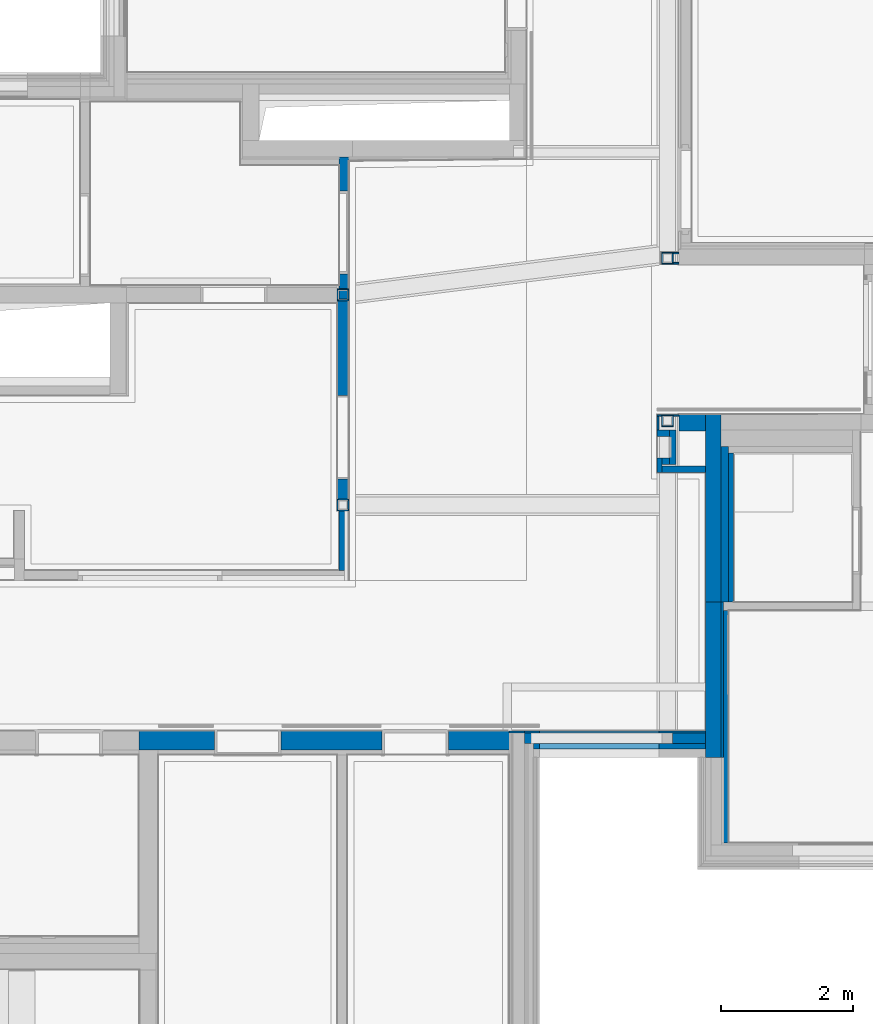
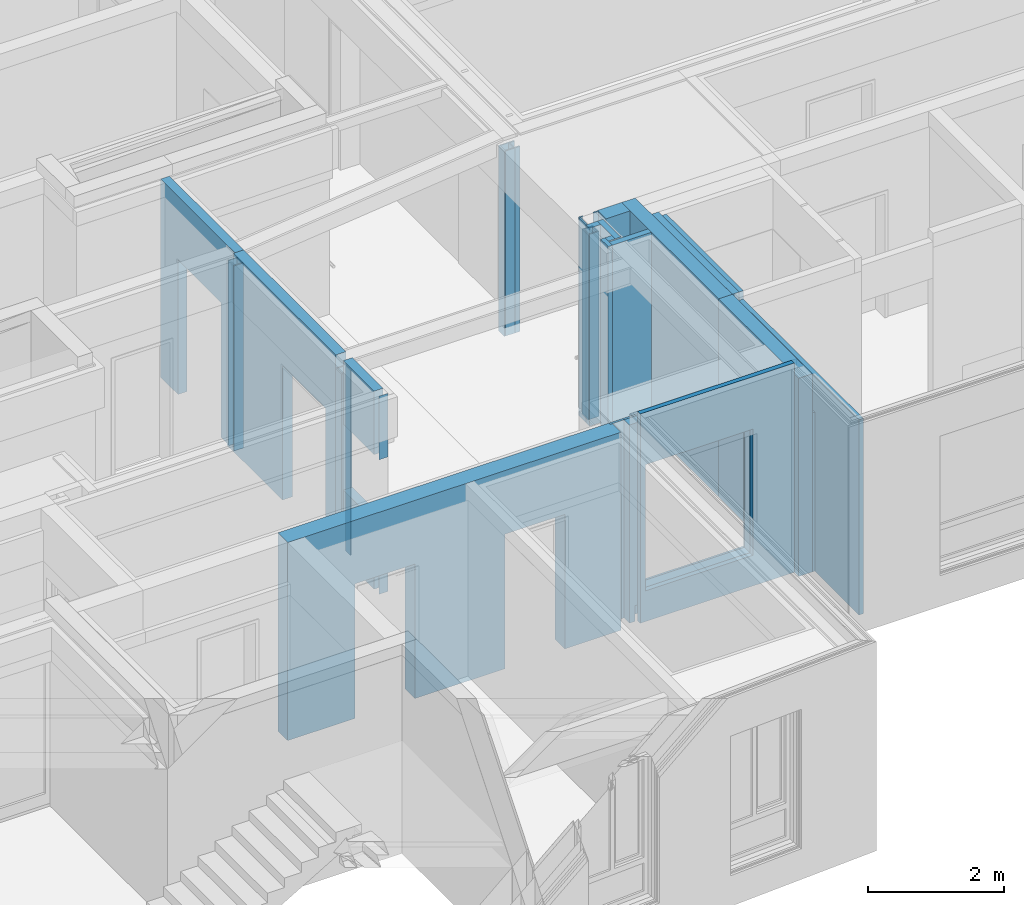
# One storey, part 41 of 222: 41 walls, 8 openings.
"""IFC4 building model written with IfcOpenShell, lengths in metres."""

from ifc_helpers import new_model, entity, si_unit, converted_unit, derived_unit, frame, frame_2d, origin, origin_with_axes, place, context, subcontext, project, spatial, polyline, rectangle, outline, extrude, clip, bounded_halfspace, material, element, save


model = new_model("IFC4")

# Units and contexts
model_context = context("Model", 3, precision=1e-05, world=origin())
body_context = subcontext(model_context, "Body", "Model", "MODEL_VIEW")
ifc_project = project(units=[si_unit("LENGTHUNIT", "METRE"), si_unit("AREAUNIT", "SQUARE_METRE"), si_unit("VOLUMEUNIT", "CUBIC_METRE"), si_unit("MASSUNIT", "GRAM", prefix="KILO"), converted_unit("PLANEANGLEUNIT", "DEGREE", entity("IfcPlaneAngleMeasure", 0.0174532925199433), si_unit("PLANEANGLEUNIT", "RADIAN"), dimensions=[0, 0, 0, 0, 0, 0, 0]), derived_unit("THERMALTRANSMITTANCEUNIT", [(si_unit("POWERUNIT", "WATT"), 1), (si_unit("THERMODYNAMICTEMPERATUREUNIT", "KELVIN"), -1), (si_unit("LENGTHUNIT", "METRE"), -2)]), derived_unit("VOLUMETRICFLOWRATEUNIT", [(si_unit("LENGTHUNIT", "METRE"), 3), (converted_unit("TIMEUNIT", "hour", entity("IfcTimeMeasure", 3600.0), si_unit("TIMEUNIT", "SECOND"), dimensions=[0, 0, 1, 0, 0, 0, 0]), -1), (si_unit("LENGTHUNIT", "METRE"), -1)])], contexts=[model_context])

# Site, building, storey
site_placement = place(None, origin())
site = spatial("IfcSite", under=ifc_project, at=site_placement, Name="Psychiatrie Neubau Wunstorf", CompositionType="ELEMENT")
building_placement = place(site_placement, origin())
building = spatial("IfcBuilding", under=site, at=building_placement, Name="Neubau H2 Stationsgebäude", CompositionType="ELEMENT")
storey_placement = place(building_placement, frame((0.0, 0.0, 3.6)))
storey = spatial("IfcBuildingStorey", under=building, at=storey_placement, Name="H2 Ebene +1", CompositionType="ELEMENT", Elevation=3.6)

# Wall
ifc_material_1 = material(Name="WA-LB")
wall_1_placement = place(storey_placement, frame((68.0875, 0.5360024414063, 0.0), z_axis=(0.0, 0.0, 1.0), x_axis=(-1.0, 0.0, 0.0)))
element("IfcWall", 1, at=wall_1_placement, inside=storey, material=ifc_material_1, context=body_context, shape_type="SweptSolid", body=[
    extrude(rectangle(XDim=0.235, YDim=0.0360000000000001, at=frame_2d((0.1175, 0.018), x_axis=(1.0, 0.0))), origin_with_axes(), (0.0, 0.0, 1.0), 3.55),
])

# Wall, opening
ifc_material_2 = material(Name="WA-LB")
wall_2_placement = place(storey_placement, frame((70.8355, 0.536002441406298, 0.0), z_axis=(0.0, 0.0, 1.0), x_axis=(-1.0, 3.72336804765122e-16, 0.0)))
wall_2 = element("IfcWall", 2, at=wall_2_placement, inside=storey, material=ifc_material_2, context=body_context, shape_type="SweptSolid", body=[
    extrude(rectangle(XDim=2.74799999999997, YDim=0.036, at=frame_2d((1.37399999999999, 0.018), x_axis=(1.0, 0.0))), origin_with_axes(), (0.0, 0.0, 1.0), 3.55),
])
opening_1_placement = place(wall_2_placement, frame((2.52099999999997, 0.036, 0.55), z_axis=(0.0, -1.0, 0.0), x_axis=(0.0, 0.0, 1.0)))
element("IfcOpeningElement", 3, at=opening_1_placement, cuts=wall_2, Name="Fensteröffnung", ObjectType="Opening", context=body_context, shape_type="SweptSolid", body=[
    extrude(outline(polyline([(2.26, 1.8145), (2.26, 0.0), (0.0, 0.0), (0.0, 1.8145), (2.26, 1.8145)])), origin_with_axes(), (0.0, 0.0, 1.0), 0.0359999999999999),
])

ifc_material_3 = material(Name="WA-HD")
wall_3_placement = place(storey_placement, frame((70.8355, 0.500002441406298, 0.0), z_axis=(0.0, 0.0, 1.0), x_axis=(-1.0, 3.30966048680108e-16, 0.0)))
wall_3 = element("IfcWall", 4, at=wall_3_placement, inside=storey, material=ifc_material_3, context=body_context, shape_type="Clipping", body=[
    clip(extrude(rectangle(XDim=2.0875, YDim=0.16, at=frame_2d((1.04375, 0.08), x_axis=(1.0, 4.2014851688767e-18))), frame((0.660499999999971, 0.0, 0.0), z_axis=(0.0, 0.0, 1.0), x_axis=(1.0, 0.0, 0.0)), (0.0, 0.0, 1.0), 3.55), bounded_halfspace(frame((1.656249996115, 0.0800006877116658, 0.28), z_axis=(-2.28344138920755e-16, -7.55741573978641e-32, 1.0), x_axis=(1.0, 1.69928576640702e-17, 2.28344138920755e-16)), True, origin_with_axes(), polyline([(0.660499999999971, 1.37542333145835e-06), (2.65199999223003, 1.37542333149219e-06), (2.65199999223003, 0.16), (0.660499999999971, 0.16), (0.660499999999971, 1.37542333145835e-06)]))),
    clip(extrude(rectangle(XDim=0.500499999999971, YDim=0.16, at=frame_2d((0.250249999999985, 0.08), x_axis=(1.0, 1.03819519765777e-16))), origin_with_axes(), (0.0, 0.0, 1.0), 3.55), bounded_halfspace(frame((1.656249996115, 0.0800006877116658, 0.28), z_axis=(-2.28344138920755e-16, -7.55741573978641e-32, 1.0), x_axis=(1.0, 1.69928576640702e-17, 2.28344138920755e-16)), True, origin_with_axes(), polyline([(0.660499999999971, 1.37542333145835e-06), (2.65199999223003, 1.37542333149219e-06), (2.65199999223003, 0.16), (0.660499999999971, 0.16), (0.660499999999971, 1.37542333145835e-06)]))),
])
opening_2_placement = place(wall_3_placement, frame((2.52099999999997, 0.16, 0.55), z_axis=(0.0, -1.0, 0.0), x_axis=(0.0, 0.0, 1.0)))
element("IfcOpeningElement", 5, at=opening_2_placement, cuts=wall_3, Name="Fensteröffnung", ObjectType="Opening", context=body_context, shape_type="SweptSolid", body=[
    extrude(outline(polyline([(2.26, 1.8145), (2.26, 0.0), (0.0, 0.0), (0.0, 1.8145), (2.26, 1.8145)])), origin_with_axes(), (0.0, 0.0, 1.0), 0.16),
])

ifc_material_4 = material(Name="WA-DL")
wall_4_placement = place(storey_placement, frame((70.8355, 0.340002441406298, 0.0), z_axis=(0.0, 0.0, 1.0), x_axis=(-1.0, 3.26311244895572e-16, 0.0)))
wall_4 = element("IfcWall", 6, at=wall_4_placement, inside=storey, material=ifc_material_4, context=body_context, shape_type="SweptSolid", body=[
    extrude(rectangle(XDim=2.61299999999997, YDim=0.08, at=frame_2d((1.30649999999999, 0.04), x_axis=(1.0, 0.0))), origin_with_axes(), (0.0, 0.0, 1.0), 3.75),
])
opening_3_placement = place(wall_4_placement, frame((2.52099999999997, 0.08, 0.55), z_axis=(0.0, -1.0, 0.0), x_axis=(0.0, 0.0, 1.0)))
element("IfcOpeningElement", 7, at=opening_3_placement, cuts=wall_4, Name="Fensteröffnung", ObjectType="Opening", context=body_context, shape_type="SweptSolid", body=[
    extrude(outline(polyline([(2.26, 1.8145), (2.26, 0.0), (0.0, 0.0), (0.0, 1.8145), (2.26, 1.8145)])), origin_with_axes(), (0.0, 0.0, 1.0), 0.08),
])

# Walls
ifc_material_5 = material(Name="WI-PR")
wall_5_placement = place(storey_placement, frame((65.4249963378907, 4.0499969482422, 0.0), z_axis=(0.0, 0.0, 1.0), x_axis=(-1.0, 0.0, 0.0)))
element("IfcWall", 8, at=wall_5_placement, inside=storey, material=ifc_material_5, context=body_context, shape_type="SweptSolid", body=[
    extrude(rectangle(XDim=0.16, YDim=0.02, at=frame_2d((0.08, 0.01), x_axis=(1.0, 0.0))), origin_with_axes(), (0.0, 0.0, 1.0), 3.317),
])
ifc_material_6 = material(Name="WI-PR")
wall_6_placement = place(storey_placement, frame((65.2449963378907, 4.0499969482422, 0.0), z_axis=(0.0, 0.0, 1.0), x_axis=(0.0, -1.0, 0.0)))
element("IfcWall", 9, at=wall_6_placement, inside=storey, material=ifc_material_6, context=body_context, shape_type="SweptSolid", body=[
    extrude(rectangle(XDim=0.18, YDim=0.02, at=frame_2d((0.09, 0.01), x_axis=(1.0, 0.0))), origin_with_axes(), (0.0, 0.0, 1.0), 3.317),
])
ifc_material_7 = material(Name="WI-PR")
wall_7_placement = place(storey_placement, frame((65.2649963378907, 3.8699969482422, 0.0)))
element("IfcWall", 10, at=wall_7_placement, inside=storey, material=ifc_material_7, context=body_context, shape_type="SweptSolid", body=[
    extrude(rectangle(XDim=0.16, YDim=0.02, at=frame_2d((0.08, 0.01), x_axis=(1.0, 0.0))), origin_with_axes(), (0.0, 0.0, 1.0), 3.317),
])
ifc_material_8 = material(Name="WI-PR")
wall_8_placement = place(storey_placement, frame((65.4249963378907, 3.8899969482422, 0.0), z_axis=(0.0, 0.0, 1.0), x_axis=(0.0, 1.0, 0.0)))
element("IfcWall", 11, at=wall_8_placement, inside=storey, material=ifc_material_8, context=body_context, shape_type="SweptSolid", body=[
    extrude(rectangle(XDim=0.14, YDim=0.02, at=frame_2d((0.07, 0.01), x_axis=(1.0, 0.0))), origin_with_axes(), (0.0, 0.0, 1.0), 3.317),
])
ifc_material_9 = material(Name="WI-PR")
wall_9_placement = place(storey_placement, frame((65.4249963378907, 7.2364996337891, 0.0), z_axis=(0.0, 0.0, 1.0), x_axis=(-1.0, 0.0, 0.0)))
element("IfcWall", 12, at=wall_9_placement, inside=storey, material=ifc_material_9, context=body_context, shape_type="SweptSolid", body=[
    extrude(rectangle(XDim=0.16, YDim=0.02, at=frame_2d((0.08, 0.01), x_axis=(1.0, 0.0))), origin_with_axes(), (0.0, 0.0, 1.0), 3.317),
])
ifc_material_10 = material(Name="WI-PR")
wall_10_placement = place(storey_placement, frame((65.2449963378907, 7.2364996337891, 0.0), z_axis=(0.0, 0.0, 1.0), x_axis=(0.0, -1.0, 0.0)))
element("IfcWall", 13, at=wall_10_placement, inside=storey, material=ifc_material_10, context=body_context, shape_type="SweptSolid", body=[
    extrude(rectangle(XDim=0.18, YDim=0.02, at=frame_2d((0.09, 0.01), x_axis=(1.0, 0.0))), origin_with_axes(), (0.0, 0.0, 1.0), 3.317),
])
ifc_material_11 = material(Name="WI-PR")
wall_11_placement = place(storey_placement, frame((65.2649963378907, 7.0564996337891, 0.0)))
element("IfcWall", 14, at=wall_11_placement, inside=storey, material=ifc_material_11, context=body_context, shape_type="SweptSolid", body=[
    extrude(rectangle(XDim=0.16, YDim=0.02, at=frame_2d((0.08, 0.01), x_axis=(1.0, 0.0))), origin_with_axes(), (0.0, 0.0, 1.0), 3.317),
])
ifc_material_12 = material(Name="WI-PR")
wall_12_placement = place(storey_placement, frame((65.4249963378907, 7.0764996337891, 0.0), z_axis=(0.0, 0.0, 1.0), x_axis=(0.0, 1.0, 0.0)))
element("IfcWall", 15, at=wall_12_placement, inside=storey, material=ifc_material_12, context=body_context, shape_type="SweptSolid", body=[
    extrude(rectangle(XDim=0.14, YDim=0.02, at=frame_2d((0.07, 0.01), x_axis=(1.0, 0.0))), origin_with_axes(), (0.0, 0.0, 1.0), 3.317),
])
ifc_material_13 = material(Name="WI-HW 60")
wall_13_placement = place(storey_placement, frame((70.4300000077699, 5.08250000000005, 0.0)))
element("IfcWall", 16, at=wall_13_placement, inside=storey, material=ifc_material_13, context=body_context, shape_type="SweptSolid", body=[
    extrude(rectangle(XDim=0.405499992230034, YDim=0.25, at=frame_2d((0.202749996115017, 0.125), x_axis=(1.0, 0.0))), origin_with_axes(), (0.0, 0.0, 1.0), 3.55),
])
ifc_material_14 = material(Name="WI-PR")
wall_14_placement = place(storey_placement, frame((70.3449950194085, 7.79249981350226, 0.0), z_axis=(0.0, 0.0, 1.0), x_axis=(-1.0, 0.0, 0.0)))
element("IfcWall", 17, at=wall_14_placement, inside=storey, material=ifc_material_14, context=body_context, shape_type="SweptSolid", body=[
    extrude(rectangle(XDim=0.16, YDim=0.02, at=frame_2d((0.08, 0.01), x_axis=(1.0, 0.0))), origin_with_axes(), (0.0, 0.0, 1.0), 3.317),
])
ifc_material_15 = material(Name="WI-PR")
wall_15_placement = place(storey_placement, frame((70.1649950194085, 7.79249981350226, 0.0), z_axis=(0.0, 0.0, 1.0), x_axis=(0.0, -1.0, 0.0)))
element("IfcWall", 18, at=wall_15_placement, inside=storey, material=ifc_material_15, context=body_context, shape_type="SweptSolid", body=[
    extrude(rectangle(XDim=0.18, YDim=0.02, at=frame_2d((0.09, 0.01), x_axis=(1.0, 0.0))), origin_with_axes(), (0.0, 0.0, 1.0), 3.317),
])
ifc_material_16 = material(Name="WI-PR")
wall_16_placement = place(storey_placement, frame((70.1849950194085, 7.61249981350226, 0.0)))
element("IfcWall", 19, at=wall_16_placement, inside=storey, material=ifc_material_16, context=body_context, shape_type="SweptSolid", body=[
    extrude(rectangle(XDim=0.16, YDim=0.02, at=frame_2d((0.08, 0.01), x_axis=(1.0, 0.0))), origin_with_axes(), (0.0, 0.0, 1.0), 3.317),
])
ifc_material_17 = material(Name="WI-PR")
wall_17_placement = place(storey_placement, frame((70.3449950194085, 7.63249981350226, 0.0), z_axis=(0.0, 0.0, 1.0), x_axis=(0.0, 1.0, 0.0)))
element("IfcWall", 20, at=wall_17_placement, inside=storey, material=ifc_material_17, context=body_context, shape_type="SweptSolid", body=[
    extrude(rectangle(XDim=0.14, YDim=0.02, at=frame_2d((0.07, 0.01), x_axis=(1.0, 0.0))), origin_with_axes(), (0.0, 0.0, 1.0), 3.317),
])
ifc_material_18 = material(Name="WI-PR")
wall_18_placement = place(storey_placement, frame((70.3249950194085, 5.32750000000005, 0.0), z_axis=(0.0, 0.0, 1.0), x_axis=(-1.0, 0.0, 0.0)))
element("IfcWall", 21, at=wall_18_placement, inside=storey, material=ifc_material_18, context=body_context, shape_type="SweptSolid", body=[
    extrude(rectangle(XDim=0.14, YDim=0.02, at=frame_2d((0.07, 0.01), x_axis=(1.0, 0.0))), origin_with_axes(), (0.0, 0.0, 1.0), 3.317),
])
ifc_material_19 = material(Name="WI-PR")
wall_19_placement = place(storey_placement, frame((70.1649950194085, 5.3275, 0.0), z_axis=(0.0, 0.0, 1.0), x_axis=(0.0, -1.0, 0.0)))
element("IfcWall", 22, at=wall_19_placement, inside=storey, material=ifc_material_19, context=body_context, shape_type="SweptSolid", body=[
    extrude(rectangle(XDim=0.179999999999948, YDim=0.02, at=frame_2d((0.0899999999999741, 0.01), x_axis=(1.0, 0.0))), origin_with_axes(), (0.0, 0.0, 1.0), 3.317),
])
ifc_material_20 = material(Name="WI-PR")
wall_20_placement = place(storey_placement, frame((70.1849950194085, 5.14750000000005, 0.0)))
element("IfcWall", 23, at=wall_20_placement, inside=storey, material=ifc_material_20, context=body_context, shape_type="SweptSolid", body=[
    extrude(rectangle(XDim=0.16, YDim=0.02, at=frame_2d((0.08, 0.01), x_axis=(1.0, 0.0))), origin_with_axes(), (0.0, 0.0, 1.0), 3.317),
])
ifc_material_21 = material(Name="WI-PR")
wall_21_placement = place(storey_placement, frame((70.3449950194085, 5.16750000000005, 0.0), z_axis=(0.0, 0.0, 1.0), x_axis=(0.0, 1.0, 0.0)))
element("IfcWall", 24, at=wall_21_placement, inside=storey, material=ifc_material_21, context=body_context, shape_type="SweptSolid", body=[
    extrude(rectangle(XDim=0.159999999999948, YDim=0.02, at=frame_2d((0.0799999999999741, 0.01), x_axis=(1.0, 0.0))), origin_with_axes(), (0.0, 0.0, 1.0), 3.317),
])
ifc_material_22 = material(Name="WI-PR")
wall_22_placement = place(storey_placement, frame((70.430000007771, 7.63749981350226, 0.0), z_axis=(0.0, 0.0, 1.0), x_axis=(-1.0, 0.0, 0.0)))
element("IfcWall", 25, at=wall_22_placement, inside=storey, material=ifc_material_22, Name="Promat / BS", context=body_context, shape_type="SweptSolid", body=[
    extrude(rectangle(XDim=0.0850049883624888, YDim=0.025, at=frame_2d((0.0425024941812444, 0.0125), x_axis=(1.0, 0.0))), origin_with_axes(), (0.0, 0.0, 1.0), 3.317),
])
ifc_material_23 = material(Name="WI-PR")
wall_23_placement = place(storey_placement, frame((70.3449950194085, 7.76749981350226, 0.0)))
element("IfcWall", 26, at=wall_23_placement, inside=storey, material=ifc_material_23, Name="Promat / BS", context=body_context, shape_type="SweptSolid", body=[
    extrude(rectangle(XDim=0.0850049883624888, YDim=0.025, at=frame_2d((0.0425024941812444, 0.0125), x_axis=(1.0, 0.0))), origin_with_axes(), (0.0, 0.0, 1.0), 3.317),
])
ifc_material_24 = material(Name="WI-LB")
wall_24_placement = place(storey_placement, frame((71.1075, 0.134002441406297, 0.0), z_axis=(0.0, 0.0, 1.0), x_axis=(0.0, 1.0, 0.0)))
element("IfcWall", 27, at=wall_24_placement, inside=storey, material=ifc_material_24, context=body_context, shape_type="SweptSolid", body=[
    extrude(rectangle(XDim=2.35149755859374, YDim=0.04, at=frame_2d((1.17574877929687, 0.02), x_axis=(1.0, 0.0))), origin_with_axes(), (0.0, 0.0, 1.0), 2.85),
])
ifc_material_25 = material(Name="WI-HW 60")
wall_25_placement = place(storey_placement, frame((71.0675, 0.134002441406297, 0.0), z_axis=(0.0, 0.0, 1.0), x_axis=(0.0, 1.0, 0.0)))
element("IfcWall", 28, at=wall_25_placement, inside=storey, material=ifc_material_25, context=body_context, shape_type="SweptSolid", body=[
    extrude(rectangle(XDim=2.35149755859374, YDim=0.232, at=frame_2d((1.17574877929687, 0.116), x_axis=(1.0, 0.0))), origin_with_axes(), (0.0, 0.0, 1.0), 3.55),
])
ifc_material_26 = material(Name="WI-HW 60")
wall_26_placement = place(storey_placement, frame((70.8355, 5.3325, 0.0), z_axis=(0.0, 0.0, 1.0), x_axis=(0.0, -1.0, 0.0)))
element("IfcWall", 29, at=wall_26_placement, inside=storey, material=ifc_material_26, context=body_context, shape_type="SweptSolid", body=[
    extrude(rectangle(XDim=2.84699999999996, YDim=0.232, at=frame_2d((1.42349999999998, 0.116), x_axis=(1.0, 0.0))), origin_with_axes(), (0.0, 0.0, 1.0), 3.55),
])

# Wall, opening
ifc_material_27 = material(Name="WI-LB")
wall_27_placement = place(storey_placement, frame((65.4249963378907, 2.81750130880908, 0.0), z_axis=(0.0, 0.0, 1.0), x_axis=(0.0, 1.0, 0.0)))
wall_27 = element("IfcWall", 30, at=wall_27_placement, inside=storey, material=ifc_material_27, context=body_context, shape_type="SweptSolid", body=[
    extrude(rectangle(XDim=0.902372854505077, YDim=0.15, at=frame_2d((0.451186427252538, 0.075), x_axis=(1.0, 0.0))), frame((0.150122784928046, 0.0, 0.0), z_axis=(0.0, 0.0, 1.0), x_axis=(1.0, 0.0, 0.0)), (0.0, 0.0, 1.0), 3.55),
    extrude(outline(polyline([(0.000122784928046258, -0.15), (0.000122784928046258, 0.0), (4.90573817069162e-06, 0.0), (0.0, -0.15), (0.000122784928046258, -0.15)])), frame((0.0, 0.15, 0.0), z_axis=(0.0, 0.0, 1.0), x_axis=(1.0, 0.0, 0.0)), (0.0, 0.0, 1.0), 3.55),
])
opening_4_placement = place(wall_27_placement, frame((1.05249563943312, 0.15, 1.23), z_axis=(0.0, -1.0, 0.0), x_axis=(0.0, 0.0, 1.0)))
element("IfcOpeningElement", 31, at=opening_4_placement, cuts=wall_27, Name="Fensteröffnung", ObjectType="Opening", context=body_context, shape_type="SweptSolid", body=[
    extrude(outline(polyline([(1.18, 1.05249073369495), (1.18, 0.0), (0.0, 0.0), (0.0, 1.05249073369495), (1.18, 1.05249073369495)])), origin_with_axes(), (0.0, 0.0, 1.0), 0.15),
])

# Walls
ifc_material_28 = material(Name="WI-LB")
wall_28_placement = place(storey_placement, frame((70.429990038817, 5.3275, 0.0), z_axis=(0.0, 0.0, 1.0), x_axis=(-1.0, 0.0, 0.0)))
element("IfcWall", 32, at=wall_28_placement, inside=storey, material=ifc_material_28, Name="Promat / BS", context=body_context, shape_type="SweptSolid", body=[
    extrude(rectangle(XDim=0.0849950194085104, YDim=0.025, at=frame_2d((0.0424975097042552, 0.0125), x_axis=(1.0, 0.0))), origin_with_axes(), (0.0, 0.0, 1.0), 3.55),
])
ifc_material_29 = material(Name="WI-LB")
wall_29_placement = place(storey_placement, frame((70.0989950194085, 4.67250000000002, 0.0), z_axis=(0.0, 0.0, 1.0), x_axis=(0.0, -1.0, 0.0)))
element("IfcWall", 33, at=wall_29_placement, inside=storey, material=ifc_material_29, Name="Promat / BS", context=body_context, shape_type="SweptSolid", body=[
    extrude(rectangle(XDim=0.22, YDim=0.075, at=frame_2d((0.11, 0.0375), x_axis=(1.0, 0.0))), origin_with_axes(), (0.0, 0.0, 1.0), 3.55),
])
ifc_material_30 = material(Name="WI-LB")
wall_30_placement = place(storey_placement, frame((70.285490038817, 4.67250000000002, 0.0), z_axis=(0.0, 0.0, 1.0), x_axis=(-1.0, 0.0, 0.0)))
element("IfcWall", 34, at=wall_30_placement, inside=storey, material=ifc_material_30, Name="Promat / BS", context=body_context, shape_type="SweptSolid", body=[
    extrude(rectangle(XDim=0.111495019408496, YDim=0.1, at=frame_2d((0.0557475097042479, 0.05), x_axis=(1.0, 0.0))), origin_with_axes(), (0.0, 0.0, 1.0), 3.55),
])
ifc_material_31 = material(Name="WI-LB")
wall_31_placement = place(storey_placement, frame((70.0989950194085, 4.99750000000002, 0.0)))
element("IfcWall", 35, at=wall_31_placement, inside=storey, material=ifc_material_31, Name="Promat / BS", context=body_context, shape_type="SweptSolid", body=[
    extrude(rectangle(XDim=0.186495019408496, YDim=0.1, at=frame_2d((0.0932475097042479, 0.05), x_axis=(1.0, 0.0))), origin_with_axes(), (0.0, 0.0, 1.0), 3.55),
])
ifc_material_32 = material(Name="WI-LB")
wall_32_placement = place(storey_placement, frame((70.0989950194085, 5.3025, 0.0), z_axis=(0.0, 0.0, 1.0), x_axis=(0.0, -1.0, 0.0)))
element("IfcWall", 36, at=wall_32_placement, inside=storey, material=ifc_material_32, Name="Promat / BS", context=body_context, shape_type="SweptSolid", body=[
    extrude(rectangle(XDim=0.204999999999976, YDim=0.025, at=frame_2d((0.102499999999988, 0.0125), x_axis=(1.0, 0.0))), origin_with_axes(), (0.0, 0.0, 1.0), 3.55),
])
ifc_material_33 = material(Name="WI-LB")
wall_33_placement = place(storey_placement, frame((70.285490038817, 5.09750000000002, 0.0), z_axis=(0.0, 0.0, 1.0), x_axis=(0.0, -1.0, 0.0)))
element("IfcWall", 37, at=wall_33_placement, inside=storey, material=ifc_material_33, Name="Promat / BS", context=body_context, shape_type="SweptSolid", body=[
    extrude(rectangle(XDim=0.525, YDim=0.1, at=frame_2d((0.2625, 0.05), x_axis=(1.0, 0.0))), origin_with_axes(), (0.0, 0.0, 1.0), 3.55),
])
ifc_material_34 = material(Name="WI-LB")
wall_34_placement = place(storey_placement, frame((70.1649950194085, 5.3275, 0.0), z_axis=(0.0, 0.0, 1.0), x_axis=(-1.0, 0.0, 0.0)))
element("IfcWall", 38, at=wall_34_placement, inside=storey, material=ifc_material_34, Name="Promat / BS", context=body_context, shape_type="SweptSolid", body=[
    extrude(rectangle(XDim=0.0659999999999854, YDim=0.025, at=frame_2d((0.0329999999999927, 0.0125), x_axis=(1.0, 0.0))), origin_with_axes(), (0.0, 0.0, 1.0), 3.55),
])
ifc_material_35 = material(Name="WI-LB")
wall_35_placement = place(storey_placement, frame((71.1075, 2.36050000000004, 0.0), z_axis=(0.0, 0.0, 1.0), x_axis=(0.0, -1.0, 0.0)))
element("IfcWall", 39, at=wall_35_placement, inside=storey, material=ifc_material_35, context=body_context, shape_type="SweptSolid", body=[
    extrude(rectangle(XDim=3.52449999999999, YDim=0.075, at=frame_2d((1.76225, 0.0375), x_axis=(1.0, 0.0))), origin_with_axes(), (0.0, 0.0, 1.0), 3.5),
])

# Wall, opening
ifc_material_36 = material(Name="WI-LB")
wall_36_placement = place(storey_placement, frame((65.4249963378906, 4.0499969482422, 0.0), z_axis=(0.0, 0.0, 1.0), x_axis=(0.0, 1.0, 0.0)))
wall_36 = element("IfcWall", 40, at=wall_36_placement, inside=storey, material=ifc_material_36, context=body_context, shape_type="SweptSolid", body=[
    extrude(rectangle(XDim=3.0065026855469, YDim=0.175, at=frame_2d((1.50325134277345, 0.0875), x_axis=(1.0, 0.0))), origin_with_axes(), (0.0, 0.0, 1.0), 3.55),
])
opening_5_placement = place(wall_36_placement, frame((0.307502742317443, 0.0, 0.0), z_axis=(0.0, 1.0, 0.0), x_axis=(0.0, 0.0, 1.0)))
element("IfcOpeningElement", 41, at=opening_5_placement, cuts=wall_36, Name="Türöffnung", ObjectType="Opening", context=body_context, shape_type="SweptSolid", body=[
    extrude(outline(polyline([(2.41, 1.26), (2.41, 0.0), (0.0, 0.0), (0.0, 1.26), (2.41, 1.26)])), origin_with_axes(), (0.0, 0.0, 1.0), 0.175),
])

# Walls
ifc_material_37 = material(Name="WI-LB")
wall_37_placement = place(storey_placement, frame((70.1739950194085, 4.45250000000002, 0.0)))
element("IfcWall", 42, at=wall_37_placement, inside=storey, material=ifc_material_37, Name="Promat / BS", context=body_context, shape_type="SweptSolid", body=[
    extrude(rectangle(XDim=0.661495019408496, YDim=0.1, at=frame_2d((0.330747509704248, 0.05), x_axis=(1.0, 0.0))), origin_with_axes(), (0.0, 0.0, 1.0), 3.55),
])
ifc_material_38 = material(Name="Installationsraum")
wall_38_placement = place(storey_placement, frame((71.0675, 4.8505, 0.0), z_axis=(0.0, 0.0, 1.0), x_axis=(0.0, -1.0, 0.0)))
element("IfcWall", 43, at=wall_38_placement, inside=storey, material=ifc_material_38, context=body_context, shape_type="SweptSolid", body=[
    extrude(rectangle(XDim=2.36499999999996, YDim=0.115, at=frame_2d((1.18249999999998, 0.0575), x_axis=(1.0, 0.0))), origin_with_axes(), (0.0, 0.0, 1.0), 3.55),
])
ifc_material_39 = material(Name="WI-VS")
wall_39_placement = place(storey_placement, frame((71.1825, 4.7505, 0.0), z_axis=(0.0, 0.0, 1.0), x_axis=(0.0, -1.0, 0.0)))
element("IfcWall", 44, at=wall_39_placement, inside=storey, material=ifc_material_39, context=body_context, shape_type="SweptSolid", body=[
    extrude(rectangle(XDim=2.26499999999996, YDim=0.075, at=frame_2d((1.13249999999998, 0.0375), x_axis=(1.0, 0.0))), origin_with_axes(), (0.0, 0.0, 1.0), 3.55),
])

# Wall, opening
ifc_material_40 = material(Name="WI-LB")
wall_40_placement = place(storey_placement, frame((65.4249963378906, 7.0564996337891, 0.0), z_axis=(0.0, 0.0, 1.0), x_axis=(0.0, 1.0, 0.0)))
wall_40 = element("IfcWall", 45, at=wall_40_placement, inside=storey, material=ifc_material_40, context=body_context, shape_type="Clipping", body=[
    clip(extrude(rectangle(XDim=2.17850005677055, YDim=0.15, at=frame_2d((1.08925002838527, 0.075), x_axis=(1.0, 0.0))), origin_with_axes(), (0.0, 0.0, 1.0), 3.55), bounded_halfspace(frame((0.09, 0.0812499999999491, 3.317), z_axis=(0.0, 0.0, 1.0), x_axis=(0.0, 1.0, 0.0)), True, origin_with_axes(), polyline([(0.18, 0.0), (0.18, 0.149999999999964), (0.155, 0.149999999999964), (0.155, 0.0249999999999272), (0.0250000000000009, 0.0249999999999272), (0.0250000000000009, 0.149999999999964), (0.0, 0.149999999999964), (0.0, 0.0), (0.18, 0.0)]))),
])
opening_6_placement = place(wall_40_placement, frame((1.66519606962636, 0.15, 0.0), z_axis=(0.0, -1.0, 0.0), x_axis=(0.0, 0.0, 1.0)))
element("IfcOpeningElement", 46, at=opening_6_placement, cuts=wall_40, Name="Türöffnung", ObjectType="Opening", context=body_context, shape_type="SweptSolid", body=[
    extrude(outline(polyline([(2.41, 1.26), (2.41, 0.0), (0.0, 0.0), (0.0, 1.26), (2.41, 1.26)])), origin_with_axes(), (0.0, 0.0, 1.0), 0.15),
])

# Wall, openings
ifc_material_41 = material(Name="WI-HW 60")
wall_41_placement = place(storey_placement, frame((67.8885, 0.536002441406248, 0.0), z_axis=(0.0, 0.0, 1.0), x_axis=(-1.0, 4.22649619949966e-16, 0.0)))
wall_41 = element("IfcWall", 47, at=wall_41_placement, inside=storey, material=ifc_material_41, context=body_context, shape_type="SweptSolid", body=[
    extrude(rectangle(XDim=5.64870635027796, YDim=0.289999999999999, at=frame_2d((2.82435317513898, 0.144999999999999), x_axis=(1.0, 0.0))), origin_with_axes(), (0.0, 0.0, 1.0), 3.55),
])
opening_7_placement = place(wall_41_placement, frame((3.49427442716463, 0.0, 0.0), z_axis=(0.0, 1.0, 0.0), x_axis=(0.0, 0.0, 1.0)))
element("IfcOpeningElement", 48, at=opening_7_placement, cuts=wall_41, Name="Türöffnung", ObjectType="Opening", context=body_context, shape_type="SweptSolid", body=[
    extrude(outline(polyline([(2.41, 1.01), (2.41, 0.0), (0.0, 0.0), (0.0, 1.01), (2.41, 1.01)])), origin_with_axes(), (0.0, 0.0, 1.0), 0.29),
])
opening_8_placement = place(wall_41_placement, frame((1.96349999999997, 0.289999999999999, 0.0), z_axis=(7.840471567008e-16, -1.0, 0.0), x_axis=(0.0, 0.0, 1.0)))
element("IfcOpeningElement", 49, at=opening_8_placement, cuts=wall_41, Name="Türöffnung", ObjectType="Opening", context=body_context, shape_type="SweptSolid", body=[
    extrude(outline(polyline([(2.41, 1.01), (2.41, 0.0), (0.0, 0.0), (0.0, 1.01), (2.41, 1.01)])), origin_with_axes(), (0.0, 0.0, 1.0), 0.29),
])

save(model, "model.ifc")
